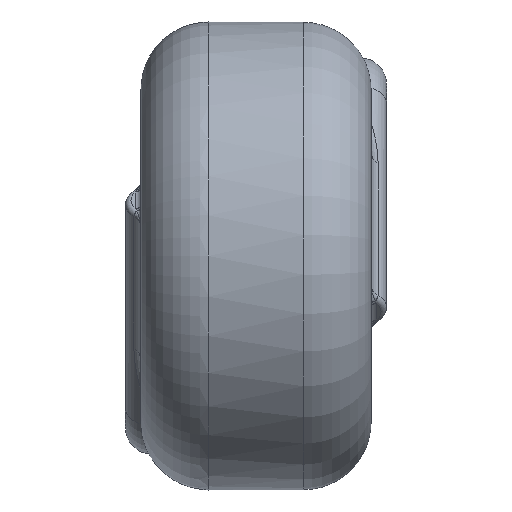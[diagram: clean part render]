
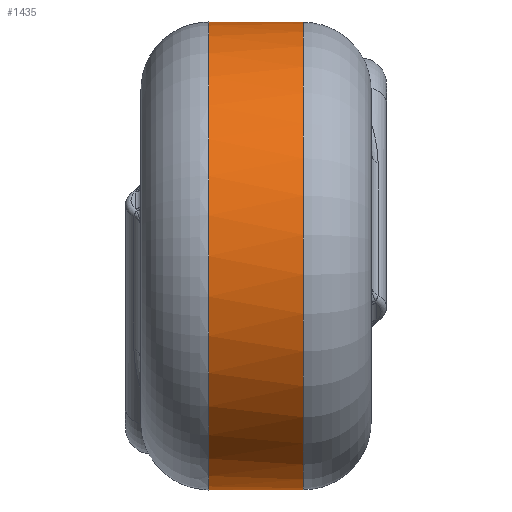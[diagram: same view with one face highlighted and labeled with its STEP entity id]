
A CAD part, left-side view. The second image highlights one B-rep face of the part: STEP entity #1435.
In plain terms, the highlighted cylindrical face has radius 8.65 mm (diameter 17.3 mm), a full revolution.
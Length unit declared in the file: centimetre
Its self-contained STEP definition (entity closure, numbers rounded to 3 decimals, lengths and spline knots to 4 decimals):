
#980=CARTESIAN_POINT('',(0.865,0.52,0.));
#981=VERTEX_POINT('',#980);
#982=CARTESIAN_POINT('',(0.0,0.52,0.0));
#983=DIRECTION('',(0.0,1.0,0.0));
#984=DIRECTION('',(-1.0,0.0,0.0));
#985=AXIS2_PLACEMENT_3D('',#982,#983,#984);
#986=CIRCLE('',#985,0.865);
#987=EDGE_CURVE('',#981,#981,#986,.T.);
#1326=CARTESIAN_POINT('',(0.865,0.169,0.));
#1327=VERTEX_POINT('',#1326);
#1328=CARTESIAN_POINT('',(0.0,0.169,0.0));
#1329=DIRECTION('',(0.0,-1.0,0.0));
#1330=DIRECTION('',(-1.0,0.0,0.0));
#1331=AXIS2_PLACEMENT_3D('',#1328,#1329,#1330);
#1332=CIRCLE('',#1331,0.865);
#1333=EDGE_CURVE('',#1327,#1327,#1332,.T.);
#1424=CARTESIAN_POINT('',(0.0,0.3445,0.0));
#1425=DIRECTION('',(0.0,1.0,0.0));
#1426=DIRECTION('',(-1.0,0.0,0.0));
#1427=AXIS2_PLACEMENT_3D('',#1424,#1425,#1426);
#1428=CYLINDRICAL_SURFACE('',#1427,0.865);
#1429=ORIENTED_EDGE('',*,*,#987,.F.);
#1430=EDGE_LOOP('',(#1429));
#1431=FACE_OUTER_BOUND('',#1430,.T.);
#1432=ORIENTED_EDGE('',*,*,#1333,.F.);
#1433=EDGE_LOOP('',(#1432));
#1434=FACE_BOUND('',#1433,.T.);
#1435=ADVANCED_FACE('',(#1431,#1434),#1428,.T.);
